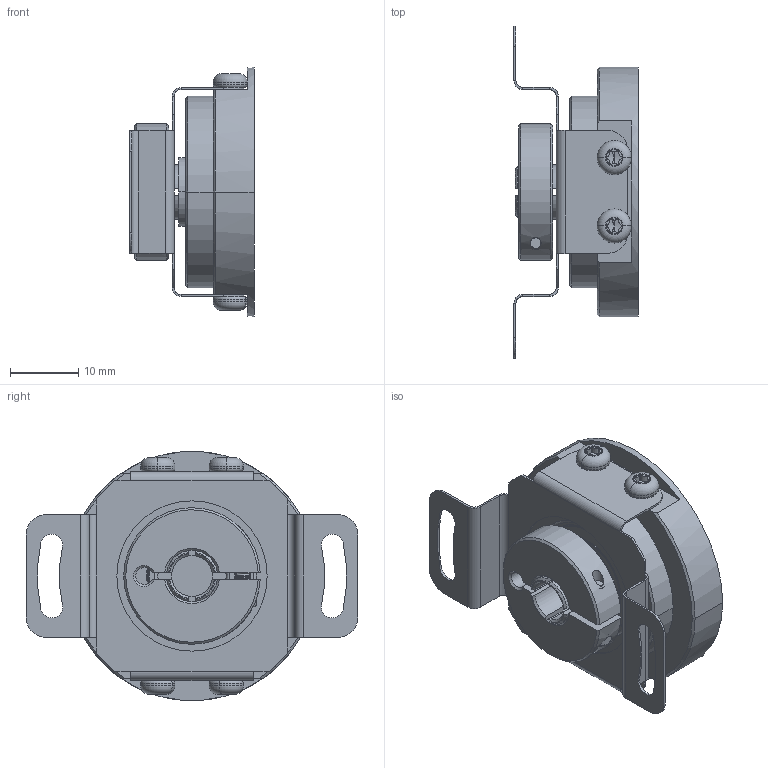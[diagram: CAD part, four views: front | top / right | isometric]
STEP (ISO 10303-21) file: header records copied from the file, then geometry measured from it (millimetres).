
FILE_DESCRIPTION (( 'STEP AP203' ), '1' );
FILE_NAME ('MCD-V060-Q3A-N.STEP', '2013-04-15T08:28:53', ( '' ), ( '' ), 'SwSTEP 2.0', 'SolidWorks 2006104', '' );
FILE_SCHEMA (( 'CONFIG_CONTROL_DESIGN' ));
Length unit declared in the file: millimetre
Products named in the file (1): MCD-V060-Q3A-N
Bounding box: 18.19 x 48.58 x 36.5 mm (x, y, z)
Surface area: 10248.6 mm2 (no closed solid volume)
Topology: 0 solids, 11 shells, 640 faces, 1590 edges, 989 vertices
Faces by surface type: cylinder 209, cone 207, plane 156, torus 44, bspline 24
Entity records: 20742 total; most frequent: CARTESIAN_POINT 5190, DIRECTION 3508, ORIENTED_EDGE 3144, EDGE_CURVE 1572, AXIS2_PLACEMENT_3D 1477, VERTEX_POINT 989, CIRCLE 860, EDGE_LOOP 699
